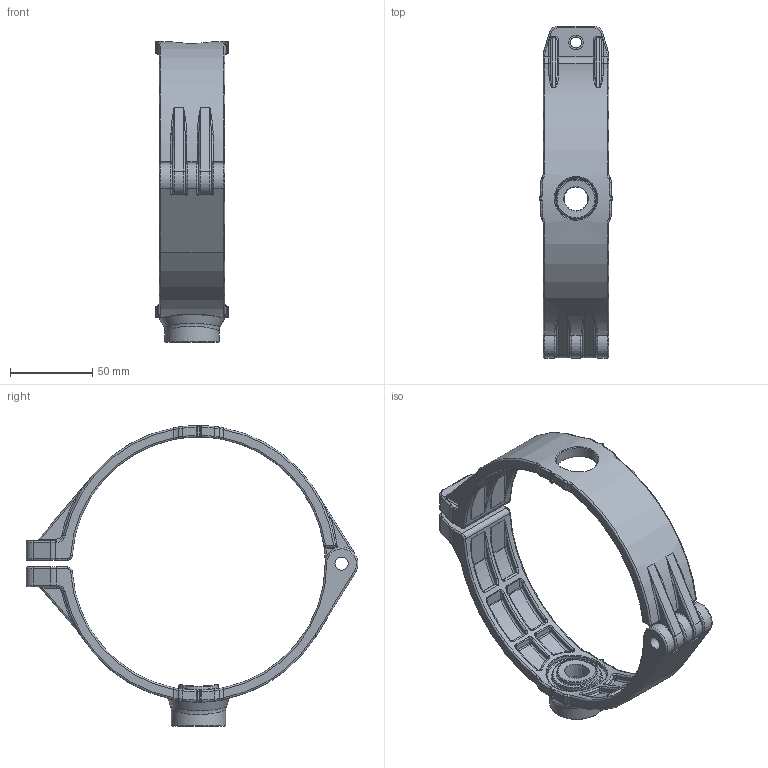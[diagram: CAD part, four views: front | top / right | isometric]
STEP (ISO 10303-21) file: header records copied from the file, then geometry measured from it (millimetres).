
FILE_DESCRIPTION(/* description */ (''),/* implementation_level */ '2;1');
FILE_NAME(/* name */ 'AU19 9199 00.stp',/* time_stamp */ '2025-07-25T14:11:59+08:00',/* author */ (''),/* organization */ (''),/* preprocessor_version */ 'ST-DEVELOPER v11',/* originating_system */ 'SIEMENS PLM Software NX 7.5',/* authorisation */ '');
FILE_SCHEMA (('CONFIG_CONTROL_DESIGN'));
Length unit declared in the file: millimetre
Products named in the file (1): Admi3CF6xypx
Bounding box: 45 x 201.96 x 183 mm (x, y, z)
Volume: 145481.1 mm3; surface area: 65869.8 mm2
Topology: 2 solids, 2 shells, 1066 faces, 2429 edges, 1315 vertices
Faces by surface type: cylinder 365, bspline 218, torus 202, plane 162, sphere 116, cone 3
Full cylindrical faces by diameter (mm): 6.8 x1, 8 x5, 9 x1, 23.5 x1, 24.001 x1, 25.5 x1, 33 x1
Entity records: 37830 total; most frequent: CARTESIAN_POINT 15779, DIRECTION 4741, ORIENTED_EDGE 4546, EDGE_CURVE 2273, AXIS2_PLACEMENT_3D 2055, VERTEX_POINT 1260, CIRCLE 1190, EDGE_LOOP 1133
